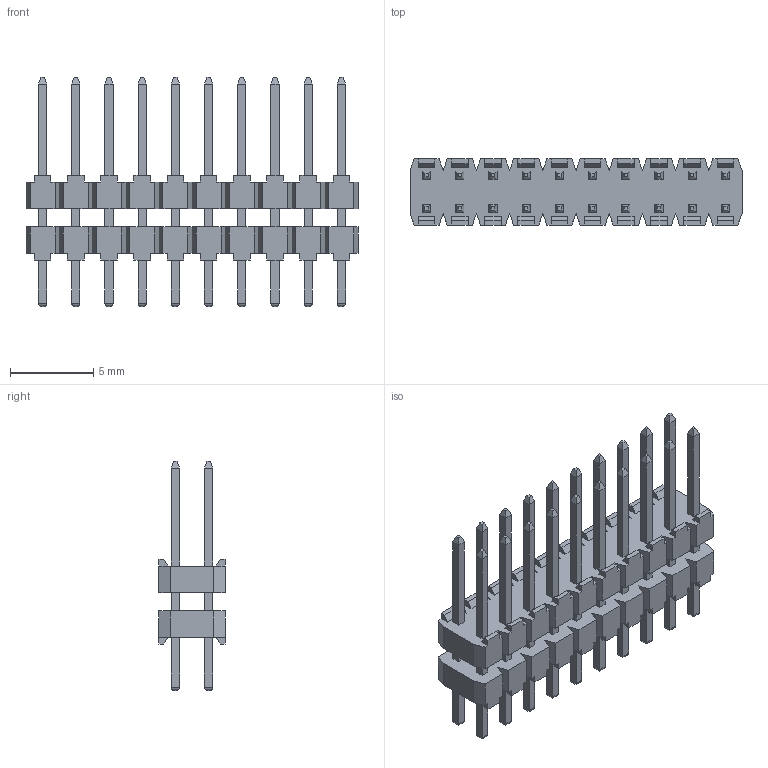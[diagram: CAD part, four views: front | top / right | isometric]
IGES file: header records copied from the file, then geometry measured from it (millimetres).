
Global section: file name: N:\GOLF_VI_2mm_UGII\9514XX_806XX06_AR\951420-8061106-AR.igs; native system: NX V3.0; preprocessor: UGS NX IGES V4.0; date: 20070314.101021; units: millimetre
Bounding box: 20 x 4 x 13.8 mm (x, y, z)
Surface area: 952.8 mm2 (no closed solid volume)
Topology: 0 solids, 0 shells, 728 faces, 3785 edges, 3785 vertices
Faces by surface type: bspline 728
